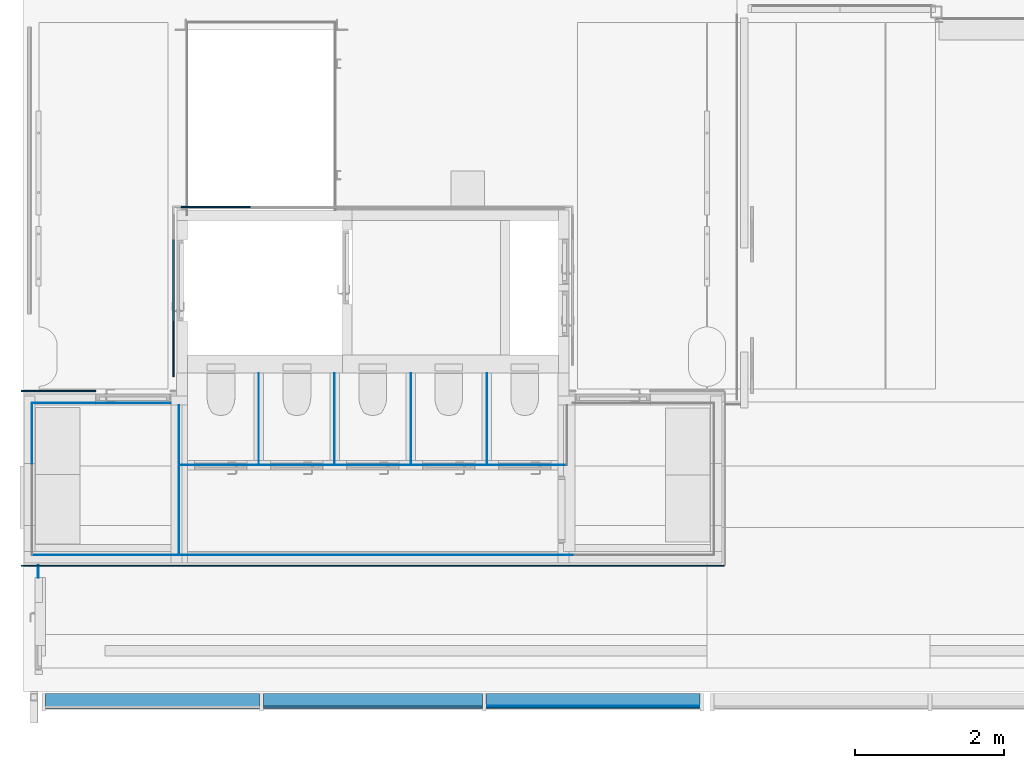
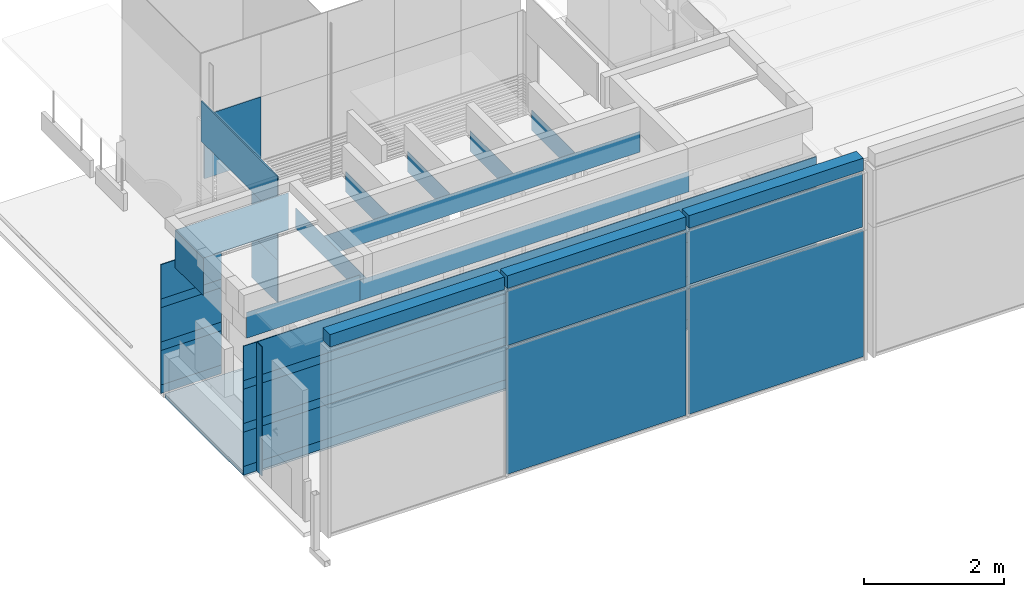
# One storey, part 7 of 26: 34 plates, 1 slab, 16 elements without a shape of their own.
"""IFC2X3 building model written with IfcOpenShell, lengths in millimetres."""

from ifc_helpers import new_model, entity, si_unit, converted_unit, derived_unit, direction, frame, frame_2d, origin, origin_with_axes, origin_2d_with_axis, place, context, subcontext, project, spatial, polyline, rectangle, outline, extrude, source, transform, mapped, material, layer, layer_set, layer_usage, type_object, element, aggregate, save


model = new_model("IFC2X3")

# Units and contexts
model_context = context("Model", 3, precision=0.01, world=frame((0.0, 4.29681676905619e-09, 0.0)), true_north=direction((4.01073788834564e-13, 1.0)))
plan_context = context("Plan", 3, precision=0.01, world=frame((0.0, 4.29681676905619e-09, 0.0)), true_north=direction((4.01073788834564e-13, 1.0)))
body_context = subcontext(model_context, "Body", "Model", "MODEL_VIEW")
ifc_project = project(units=[converted_unit("PLANEANGLEUNIT", "DEGREE", entity("IfcPositiveLengthMeasure", 0.0174532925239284), si_unit("PLANEANGLEUNIT", "RADIAN"), dimensions=[0, 0, 0, 0, 0, 0, 0]), si_unit("AREAUNIT", "SQUARE_METRE"), si_unit("LENGTHUNIT", "METRE", prefix="MILLI"), si_unit("MASSUNIT", "GRAM", prefix="KILO"), si_unit("POWERUNIT", "WATT"), si_unit("PRESSUREUNIT", "PASCAL", prefix="KILO"), si_unit("FORCEUNIT", "NEWTON", prefix="KILO"), si_unit("ELECTRICVOLTAGEUNIT", "VOLT"), si_unit("ELECTRICCURRENTUNIT", "AMPERE"), si_unit("THERMODYNAMICTEMPERATUREUNIT", "DEGREE_CELSIUS"), si_unit("TIMEUNIT", "SECOND"), si_unit("VOLUMEUNIT", "CUBIC_METRE"), derived_unit("LINEARVELOCITYUNIT", [(si_unit("LENGTHUNIT", "METRE"), 1), (si_unit("TIMEUNIT", "SECOND"), -1)]), derived_unit("VOLUMETRICFLOWRATEUNIT", [(si_unit("VOLUMEUNIT", "CUBIC_METRE"), 1), (si_unit("TIMEUNIT", "SECOND"), -1)]), derived_unit("THERMALTRANSMITTANCEUNIT", [(si_unit("POWERUNIT", "WATT"), 1), (si_unit("THERMODYNAMICTEMPERATUREUNIT", "KELVIN"), -1), (si_unit("AREAUNIT", "SQUARE_METRE"), -1)]), derived_unit("SOUNDPRESSUREUNIT", [(si_unit("PRESSUREUNIT", "PASCAL"), 1)])], contexts=[model_context, plan_context])

# Site, building, storey
site_placement = place(None, origin_with_axes())
site = spatial("IfcSite", under=ifc_project, at=site_placement, Name="ENGM", CompositionType="ELEMENT")
building_placement = place(site_placement, origin_with_axes())
building = spatial("IfcBuilding", under=site, at=building_placement, Name="TG", CompositionType="ELEMENT")
storey_placement = place(building_placement, frame((0.0, 0.0, 210200.0), z_axis=(0.0, 0.0, 1.0), x_axis=(1.0, 0.0, 0.0)))
storey = spatial("IfcBuildingStorey", under=building, at=storey_placement, Name="Nivå F - 0,7 m", CompositionType="ELEMENT", Elevation=210200.0)

# Curtain wall, plates
curtain_wall_type_1 = type_object("IfcCurtainWallType", Name="Curtain Wall:A232 - UGV - Glass 30 mm", PredefinedType="NOTDEFINED")
curtain_wall_1_placement = place(storey_placement, frame((0.0, 0.0, -210200.0), z_axis=(0.0, 0.0, 1.0), x_axis=(1.0, 0.0, 0.0)))
curtain_wall_1 = element("IfcCurtainWall", 1, at=curtain_wall_1_placement, inside=storey, type_object=curtain_wall_type_1, Name="Curtain Wall:A232 - UGV - Glass 30 mm", ObjectType="Curtain Wall:A232 - UGV - Glass 30 mm")
ifc_material_1 = material(Name="Glass (Avinor)")
plate_type_1 = type_object("IfcPlateType", Name="System Panel:A234 - Glass - 30 mm", PredefinedType="CURTAIN_PANEL", material=ifc_material_1)
shared_shape_1 = source(origin(), body_context, "Body", "SweptSolid", [
    extrude(rectangle(XDim=30.0, YDim=2880.0, at=origin_2d_with_axis()), frame((0.0, 15.0, 0.0), z_axis=(0.0, 0.0, 1.0), x_axis=(0.0, 1.0, 0.0)), (0.0, 0.0, 1.0), 2200.0),
])
plate_1_placement = place(curtain_wall_1_placement, frame((329464.725000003, 457999.999999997, 210230.0), z_axis=(0.0, 0.0, 1.0), x_axis=(-1.0, 0.0, 0.0)))
plate_1 = element("IfcPlate", 2, at=plate_1_placement, type_object=plate_type_1, material=ifc_material_1, Name="System Panel:A234 - Glass - 30 mm", ObjectType="System Panel:A234 - Glass - 30 mm", context=body_context, shape_type="MappedRepresentation", body=[
    mapped(shared_shape_1, transform((0.0, 0.0, 0.0), scale=1.0)),
])
plate_type_2 = type_object("IfcPlateType", Name="System Panel:A234 - Glass - 30 mm", PredefinedType="CURTAIN_PANEL", material=ifc_material_1)
shared_shape_2 = source(origin(), body_context, "Body", "SweptSolid", [
    extrude(rectangle(XDim=30.0, YDim=2949.99999999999, at=origin_2d_with_axis()), frame((0.0, 15.0, 0.0), z_axis=(0.0, 0.0, 1.0), x_axis=(0.0, 1.0, 0.0)), (0.0, 0.0, 1.0), 2200.0),
])
plate_2_placement = place(curtain_wall_1_placement, frame((326499.725000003, 457999.999999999, 210230.0), z_axis=(0.0, 0.0, 1.0), x_axis=(-1.0, 0.0, 0.0)))
plate_2 = element("IfcPlate", 3, at=plate_2_placement, type_object=plate_type_2, material=ifc_material_1, Name="System Panel:A234 - Glass - 30 mm", ObjectType="System Panel:A234 - Glass - 30 mm", context=body_context, shape_type="MappedRepresentation", body=[
    mapped(shared_shape_2, transform((0.0, 0.0, 0.0), scale=1.0)),
])
plate_type_3 = type_object("IfcPlateType", Name="System Panel:A245 - Glass - 10 mm", PredefinedType="CURTAIN_PANEL", material=ifc_material_1)
shared_shape_3 = source(origin(), body_context, "Body", "SweptSolid", [
    extrude(rectangle(XDim=10.0, YDim=2880.0, at=origin_2d_with_axis()), frame((0.0, 5.0, 0.0), z_axis=(0.0, 0.0, 1.0), x_axis=(0.0, 1.0, 0.0)), (0.0, 0.0, 1.0), 950.000000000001),
])
plate_3_placement = place(curtain_wall_1_placement, frame((329464.725000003, 457999.999999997, 212480.0), z_axis=(0.0, 0.0, 1.0), x_axis=(-1.0, 0.0, 0.0)))
plate_3 = element("IfcPlate", 4, at=plate_3_placement, type_object=plate_type_3, material=ifc_material_1, Name="System Panel:A245 - Glass - 10 mm", ObjectType="System Panel:A245 - Glass - 10 mm", context=body_context, shape_type="MappedRepresentation", body=[
    mapped(shared_shape_3, transform((0.0, 0.0, 0.0), scale=1.0)),
])
plate_type_4 = type_object("IfcPlateType", Name="System Panel:A234 - Glass - 30 mm", PredefinedType="CURTAIN_PANEL", material=ifc_material_1)
shared_shape_4 = source(origin(), body_context, "Body", "SweptSolid", [
    extrude(rectangle(XDim=30.0, YDim=2949.99999999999, at=origin_2d_with_axis()), frame((0.0, 15.0, 0.0), z_axis=(0.0, 0.0, 1.0), x_axis=(0.0, 1.0, 0.0)), (0.0, 0.0, 1.0), 950.000000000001),
])
plate_4_placement = place(curtain_wall_1_placement, frame((326499.725000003, 457999.999999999, 212480.0), z_axis=(0.0, 0.0, 1.0), x_axis=(-1.0, 0.0, 0.0)))
plate_4 = element("IfcPlate", 5, at=plate_4_placement, type_object=plate_type_4, material=ifc_material_1, Name="System Panel:A234 - Glass - 30 mm", ObjectType="System Panel:A234 - Glass - 30 mm", context=body_context, shape_type="MappedRepresentation", body=[
    mapped(shared_shape_4, transform((0.0, 0.0, 0.0), scale=1.0)),
])

# Curtain wall, plate
curtain_wall_type_2 = type_object("IfcCurtainWallType", Name="Curtain Wall:A242 - IGV - Glass - 6 mm", PredefinedType="NOTDEFINED")
curtain_wall_2_placement = place(storey_placement, frame((0.0, 0.0, -210200.0), z_axis=(0.0, 0.0, 1.0), x_axis=(1.0, 0.0, 0.0)))
curtain_wall_2 = element("IfcCurtainWall", 6, at=curtain_wall_2_placement, inside=storey, type_object=curtain_wall_type_2, Name="Curtain Wall:A242 - IGV - Glass - 6 mm", ObjectType="Curtain Wall:A242 - IGV - Glass - 6 mm")
plate_type_5 = type_object("IfcPlateType", Name="System Panel:A245 - Glass - 6 mm", PredefinedType="CURTAIN_PANEL", material=ifc_material_1)
shared_shape_5 = source(origin(), body_context, "Body", "SweptSolid", [
    extrude(rectangle(XDim=6.0, YDim=1239.78749999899, at=frame_2d((-2.22044604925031e-16, 0.0), x_axis=(1.0, 0.0))), frame((0.0, -3.0, 0.0), z_axis=(0.0, 0.0, 1.0), x_axis=(0.0, 1.0, 0.0)), (0.0, 0.0, 1.0), 359.999999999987),
])
plate_5_placement = place(curtain_wall_2_placement, frame((324966.999999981, 461858.856250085, 212450.0), z_axis=(0.0, 0.0, 1.0), x_axis=(0.0, -1.0, 0.0)))
plate_5 = element("IfcPlate", 7, at=plate_5_placement, type_object=plate_type_5, material=ifc_material_1, Name="System Panel:A245 - Glass - 6 mm", ObjectType="System Panel:A245 - Glass - 6 mm", context=body_context, shape_type="MappedRepresentation", body=[
    mapped(shared_shape_5, transform((0.0, 0.0, 0.0), scale=1.0)),
])
aggregate(curtain_wall_2, [plate_5])

curtain_wall_3_placement = place(storey_placement, frame((0.0, 0.0, -210200.0), z_axis=(0.0, 0.0, 1.0), x_axis=(1.0, 0.0, 0.0)))
curtain_wall_3 = element("IfcCurtainWall", 8, at=curtain_wall_3_placement, inside=storey, type_object=curtain_wall_type_2, Name="Curtain Wall:A242 - IGV - Glass - 6 mm", ObjectType="Curtain Wall:A242 - IGV - Glass - 6 mm")
plate_6_placement = place(curtain_wall_3_placement, frame((325983.999999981, 461858.856250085, 212450.0), z_axis=(0.0, 0.0, 1.0), x_axis=(0.0, -1.0, 0.0)))
plate_6 = element("IfcPlate", 9, at=plate_6_placement, type_object=plate_type_5, material=ifc_material_1, Name="System Panel:A245 - Glass - 6 mm", ObjectType="System Panel:A245 - Glass - 6 mm", context=body_context, shape_type="MappedRepresentation", body=[
    mapped(shared_shape_5, transform((0.0, 0.0, 0.0), scale=1.0)),
])
aggregate(curtain_wall_3, [plate_6])

curtain_wall_4_placement = place(storey_placement, frame((0.0, 0.0, -210200.0), z_axis=(0.0, 0.0, 1.0), x_axis=(1.0, 0.0, 0.0)))
curtain_wall_4 = element("IfcCurtainWall", 10, at=curtain_wall_4_placement, inside=storey, type_object=curtain_wall_type_2, Name="Curtain Wall:A242 - IGV - Glass - 6 mm", ObjectType="Curtain Wall:A242 - IGV - Glass - 6 mm")
plate_7_placement = place(curtain_wall_4_placement, frame((327015.999999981, 461858.856250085, 212450.0), z_axis=(0.0, 0.0, 1.0), x_axis=(0.0, -1.0, 0.0)))
plate_7 = element("IfcPlate", 11, at=plate_7_placement, type_object=plate_type_5, material=ifc_material_1, Name="System Panel:A245 - Glass - 6 mm", ObjectType="System Panel:A245 - Glass - 6 mm", context=body_context, shape_type="MappedRepresentation", body=[
    mapped(shared_shape_5, transform((0.0, 0.0, 0.0), scale=1.0)),
])
aggregate(curtain_wall_4, [plate_7])

curtain_wall_5_placement = place(storey_placement, frame((0.0, 0.0, -210200.0), z_axis=(0.0, 0.0, 1.0), x_axis=(1.0, 0.0, 0.0)))
curtain_wall_5 = element("IfcCurtainWall", 12, at=curtain_wall_5_placement, inside=storey, type_object=curtain_wall_type_2, Name="Curtain Wall:A242 - IGV - Glass - 6 mm", ObjectType="Curtain Wall:A242 - IGV - Glass - 6 mm")
plate_8_placement = place(curtain_wall_5_placement, frame((328038.999999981, 461858.856250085, 212450.0), z_axis=(0.0, 0.0, 1.0), x_axis=(0.0, -1.0, 0.0)))
plate_8 = element("IfcPlate", 13, at=plate_8_placement, type_object=plate_type_5, material=ifc_material_1, Name="System Panel:A245 - Glass - 6 mm", ObjectType="System Panel:A245 - Glass - 6 mm", context=body_context, shape_type="MappedRepresentation", body=[
    mapped(shared_shape_5, transform((0.0, 0.0, 0.0), scale=1.0)),
])
aggregate(curtain_wall_5, [plate_8])

curtain_wall_6_placement = place(storey_placement, frame((0.0, 0.0, -210200.0), z_axis=(0.0, 0.0, 1.0), x_axis=(1.0, 0.0, 0.0)))
curtain_wall_6 = element("IfcCurtainWall", 14, at=curtain_wall_6_placement, inside=storey, type_object=curtain_wall_type_2, Name="Curtain Wall:A242 - IGV - Glass - 6 mm", ObjectType="Curtain Wall:A242 - IGV - Glass - 6 mm")
plate_type_6 = type_object("IfcPlateType", Name="System Panel:A245 - Glass - 6 mm", PredefinedType="CURTAIN_PANEL", material=ifc_material_1)
shared_shape_6 = source(origin(), body_context, "Body", "SweptSolid", [
    extrude(rectangle(XDim=6.0, YDim=5216.74999997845, at=origin_2d_with_axis()), frame((0.0, 3.0, 0.0), z_axis=(0.0, 0.0, 1.0), x_axis=(0.0, 1.0, 0.0)), (0.0, 0.0, 1.0), 359.999999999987),
])
plate_9_placement = place(curtain_wall_6_placement, frame((326500.62499999, 461244.46249997, 212450.0), z_axis=(0.0, 0.0, 1.0), x_axis=(-1.0, 0.0, 0.0)))
plate_9 = element("IfcPlate", 15, at=plate_9_placement, type_object=plate_type_6, material=ifc_material_1, Name="System Panel:A245 - Glass - 6 mm", ObjectType="System Panel:A245 - Glass - 6 mm", context=body_context, shape_type="MappedRepresentation", body=[
    mapped(shared_shape_6, transform((0.0, 0.0, 0.0), scale=1.0)),
])
aggregate(curtain_wall_6, [plate_9])

curtain_wall_type_3 = type_object("IfcCurtainWallType", Name="Curtain Wall:A245 - BIM av T1 - IMK 20mm - Offset 30mm", PredefinedType="NOTDEFINED")
curtain_wall_7_placement = place(storey_placement, frame((0.0, 0.0, -210200.0), z_axis=(0.0, 0.0, 1.0), x_axis=(1.0, 0.0, 0.0)))
curtain_wall_7 = element("IfcCurtainWall", 16, at=curtain_wall_7_placement, inside=storey, type_object=curtain_wall_type_3, Name="Curtain Wall:A245 - BIM av T1 - IMK 20mm - Offset 30mm", ObjectType="Curtain Wall:A245 - BIM av T1 - IMK 20mm - Offset 30mm")
ifc_material_2 = material(Name="T2_Tre Finerplate")
plate_type_7 = type_object("IfcPlateType", Name="System Panel:A245 - Trepanel eksisterende", PredefinedType="CURTAIN_PANEL", material=ifc_material_2)
shared_shape_7 = source(origin(), body_context, "Body", "SweptSolid", [
    extrude(rectangle(XDim=20.0, YDim=935.000000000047, at=frame_2d((1.77635683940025e-15, 0.0), x_axis=(1.0, 0.0))), frame((0.0, 40.0, 0.0), z_axis=(0.0, 0.0, 1.0), x_axis=(0.0, 1.0, 0.0)), (0.0, 0.0, 1.0), 1104.99999999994),
])
plate_10_placement = place(curtain_wall_7_placement, frame((324382.500000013, 464677.272716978, 211695.0), z_axis=(0.0, 0.0, 1.0), x_axis=(1.0, 0.0, 0.0)))
plate_10 = element("IfcPlate", 17, at=plate_10_placement, type_object=plate_type_7, material=ifc_material_2, Name="System Panel:A245 - Trepanel eksisterende", ObjectType="System Panel:A245 - Trepanel eksisterende", context=body_context, shape_type="MappedRepresentation", body=[
    mapped(shared_shape_7, transform((0.0, 0.0, 0.0), scale=1.0)),
])
aggregate(curtain_wall_7, [plate_10])

# Curtain wall, plates
curtain_wall_8_placement = place(storey_placement, frame((0.0, 0.0, -210200.0), z_axis=(0.0, 0.0, 1.0), x_axis=(1.0, 0.0, 0.0)))
curtain_wall_8 = element("IfcCurtainWall", 18, at=curtain_wall_8_placement, inside=storey, type_object=curtain_wall_type_3, Name="Curtain Wall:A245 - BIM av T1 - IMK 20mm - Offset 30mm", ObjectType="Curtain Wall:A245 - BIM av T1 - IMK 20mm - Offset 30mm")
ifc_material_3 = material(Name="Metal - Preget plate")
plate_type_8 = type_object("IfcPlateType", Name="System Panel:U245 - Metallkasett Inv. - 20 mm - Offset 30 mm", PredefinedType="CURTAIN_PANEL", material=ifc_material_3)
shared_shape_8 = source(origin(), body_context, "Body", "SweptSolid", [
    extrude(rectangle(XDim=20.0, YDim=738.937500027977, at=frame_2d((-1.77635683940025e-15, 0.0), x_axis=(1.0, 0.0))), frame((0.0, -40.0, 0.0), z_axis=(0.0, 0.0, 1.0), x_axis=(0.0, 1.0, 0.0)), (0.0, 0.0, 1.0), 750.000000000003),
])
plate_11_placement = place(curtain_wall_8_placement, frame((323855.000000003, 462800.531250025, 210950.0), z_axis=(0.0, 0.0, 1.0), x_axis=(0.0, -1.0, 0.0)))
plate_11 = element("IfcPlate", 19, at=plate_11_placement, type_object=plate_type_8, material=ifc_material_3, Name="System Panel:U245 - Metallkasett Inv. - 20 mm - Offset 30 mm", ObjectType="System Panel:U245 - Metallkasett Inv. - 20 mm - Offset 30 mm", context=body_context, shape_type="MappedRepresentation", body=[
    mapped(shared_shape_8, transform((0.0, 0.0, 0.0), scale=1.0)),
])
plate_12_placement = place(curtain_wall_8_placement, frame((323855.000000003, 462800.531250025, 211700.0), z_axis=(0.0, 0.0, 1.0), x_axis=(0.0, -1.0, 0.0)))
plate_12 = element("IfcPlate", 20, at=plate_12_placement, type_object=plate_type_8, material=ifc_material_3, Name="System Panel:U245 - Metallkasett Inv. - 20 mm - Offset 30 mm", ObjectType="System Panel:U245 - Metallkasett Inv. - 20 mm - Offset 30 mm", context=body_context, shape_type="MappedRepresentation", body=[
    mapped(shared_shape_8, transform((0.0, 0.0, 0.0), scale=1.0)),
])
ifc_material_4 = material(Name="Metal - Steel")
plate_type_9 = type_object("IfcPlateType", Name="System Panel:A245 - Metallkasett Inv.20mm - Offset 30mm", PredefinedType="CURTAIN_PANEL", material=ifc_material_4)
shared_shape_9 = source(origin(), body_context, "Body", "SweptSolid", [
    extrude(rectangle(XDim=699.999999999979, YDim=2186.21021696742, at=frame_2d((0.0, 100.416195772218), x_axis=(1.0, 0.0))), frame((-100.416195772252, -50.0, 350.0), z_axis=(0.0, 1.0, 0.0), x_axis=(0.0, 0.0, 1.0)), (0.0, 0.0, 1.0), 20.0),
])
plate_13_placement = place(curtain_wall_8_placement, frame((323855.000000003, 463524.167608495, 212450.0), z_axis=(0.0, 0.0, 1.0), x_axis=(0.0, -1.0, 0.0)))
plate_13 = element("IfcPlate", 21, at=plate_13_placement, type_object=plate_type_9, material=ifc_material_4, Name="System Panel:A245 - Metallkasett Inv.20mm - Offset 30mm", ObjectType="System Panel:A245 - Metallkasett Inv.20mm - Offset 30mm", context=body_context, shape_type="MappedRepresentation", body=[
    mapped(shared_shape_9, transform((0.0, 0.0, 0.0), scale=1.0)),
])
aggregate(curtain_wall_8, [plate_11, plate_12, plate_13])

curtain_wall_type_4 = type_object("IfcCurtainWallType", Name="Curtain Wall:A245 - ITK - Trekledning", PredefinedType="NOTDEFINED")
curtain_wall_9_placement = place(storey_placement, frame((0.0, 0.0, -210200.0), z_axis=(0.0, 0.0, 1.0), x_axis=(1.0, 0.0, 0.0)))
curtain_wall_9 = element("IfcCurtainWall", 22, at=curtain_wall_9_placement, inside=storey, type_object=curtain_wall_type_4, Name="Curtain Wall:A245 - ITK - Trekledning", ObjectType="Curtain Wall:A245 - ITK - Trekledning")
ifc_material_5 = material(Name="Wood - Timber")
plate_type_10 = type_object("IfcPlateType", Name="System Panel:A245 - KL-T03 - Trekledning 14mm", PredefinedType="CURTAIN_PANEL", material=ifc_material_5)
shared_shape_10 = source(origin(), body_context, "Body", "SweptSolid", [
    extrude(rectangle(XDim=14.0, YDim=9462.0000000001, at=origin_2d_with_axis()), frame((0.0, -7.0, 0.0), z_axis=(0.0, 0.0, 1.0), x_axis=(0.0, 1.0, 0.0)), (0.0, 0.0, 1.0), 150.000000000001),
])
plate_14_placement = place(curtain_wall_9_placement, frame((326500.000000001, 459892.600000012, 210200.0), z_axis=(0.0, 0.0, 1.0), x_axis=(1.0, 0.0, 0.0)))
plate_14 = element("IfcPlate", 23, at=plate_14_placement, type_object=plate_type_10, material=ifc_material_5, Name="System Panel:A245 - KL-T03 - Trekledning 14mm", ObjectType="System Panel:A245 - KL-T03 - Trekledning 14mm", context=body_context, shape_type="MappedRepresentation", body=[
    mapped(shared_shape_10, transform((0.0, 0.0, 0.0), scale=1.0)),
])
plate_15_placement = place(curtain_wall_9_placement, frame((326500.000000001, 459892.600000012, 210950.0), z_axis=(0.0, 0.0, 1.0), x_axis=(1.0, 0.0, 0.0)))
plate_15 = element("IfcPlate", 24, at=plate_15_placement, type_object=plate_type_10, material=ifc_material_5, Name="System Panel:A245 - KL-T03 - Trekledning 14mm", ObjectType="System Panel:A245 - KL-T03 - Trekledning 14mm", context=body_context, shape_type="MappedRepresentation", body=[
    mapped(shared_shape_10, transform((0.0, 0.0, 0.0), scale=1.0)),
])
plate_16_placement = place(curtain_wall_9_placement, frame((326500.000000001, 459892.600000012, 211700.0), z_axis=(0.0, 0.0, 1.0), x_axis=(1.0, 0.0, 0.0)))
plate_16 = element("IfcPlate", 25, at=plate_16_placement, type_object=plate_type_10, material=ifc_material_5, Name="System Panel:A245 - KL-T03 - Trekledning 14mm", ObjectType="System Panel:A245 - KL-T03 - Trekledning 14mm", context=body_context, shape_type="MappedRepresentation", body=[
    mapped(shared_shape_10, transform((0.0, 0.0, 0.0), scale=1.0)),
])
plate_type_11 = type_object("IfcPlateType", Name="System Panel:A245 - KL-T03 - Trekledning 14mm", PredefinedType="CURTAIN_PANEL", material=ifc_material_5)
shared_shape_11 = source(origin(), body_context, "Body", "SweptSolid", [
    extrude(rectangle(XDim=14.0, YDim=9462.0000000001, at=origin_2d_with_axis()), frame((0.0, -7.0, 0.0), z_axis=(0.0, 0.0, 1.0), x_axis=(0.0, 1.0, 0.0)), (0.0, 0.0, 1.0), 600.000000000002),
])
plate_17_placement = place(curtain_wall_9_placement, frame((326500.000000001, 459892.600000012, 210350.0), z_axis=(0.0, 0.0, 1.0), x_axis=(1.0, 0.0, 0.0)))
plate_17 = element("IfcPlate", 26, at=plate_17_placement, type_object=plate_type_11, material=ifc_material_5, Name="System Panel:A245 - KL-T03 - Trekledning 14mm", ObjectType="System Panel:A245 - KL-T03 - Trekledning 14mm", context=body_context, shape_type="MappedRepresentation", body=[
    mapped(shared_shape_11, transform((0.0, 0.0, 0.0), scale=1.0)),
])
plate_18_placement = place(curtain_wall_9_placement, frame((326500.000000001, 459892.600000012, 211100.0), z_axis=(0.0, 0.0, 1.0), x_axis=(1.0, 0.0, 0.0)))
plate_18 = element("IfcPlate", 27, at=plate_18_placement, type_object=plate_type_11, material=ifc_material_5, Name="System Panel:A245 - KL-T03 - Trekledning 14mm", ObjectType="System Panel:A245 - KL-T03 - Trekledning 14mm", context=body_context, shape_type="MappedRepresentation", body=[
    mapped(shared_shape_11, transform((0.0, 0.0, 0.0), scale=1.0)),
])
plate_19_placement = place(curtain_wall_9_placement, frame((326500.000000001, 459892.600000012, 211850.0), z_axis=(0.0, 0.0, 1.0), x_axis=(1.0, 0.0, 0.0)))
plate_19 = element("IfcPlate", 28, at=plate_19_placement, type_object=plate_type_11, material=ifc_material_5, Name="System Panel:A245 - KL-T03 - Trekledning 14mm", ObjectType="System Panel:A245 - KL-T03 - Trekledning 14mm", context=body_context, shape_type="MappedRepresentation", body=[
    mapped(shared_shape_11, transform((0.0, 0.0, 0.0), scale=1.0)),
])
aggregate(curtain_wall_9, [plate_14, plate_17, plate_15, plate_18, plate_16, plate_19])

curtain_wall_10_placement = place(storey_placement, frame((0.0, 0.0, -210200.0), z_axis=(0.0, 0.0, 1.0), x_axis=(1.0, 0.0, 0.0)))
curtain_wall_10 = element("IfcCurtainWall", 29, at=curtain_wall_10_placement, inside=storey, type_object=curtain_wall_type_4, Name="Curtain Wall:A245 - ITK - Trekledning", ObjectType="Curtain Wall:A245 - ITK - Trekledning")
plate_type_12 = type_object("IfcPlateType", Name="System Panel:A245 - KL-T03 - Trekledning 14mm", PredefinedType="CURTAIN_PANEL", material=ifc_material_5)
shared_shape_12 = source(origin(), body_context, "Body", "SweptSolid", [
    extrude(rectangle(XDim=14.0, YDim=1002.00000001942, at=origin_2d_with_axis()), frame((0.0, -7.0, 0.0), z_axis=(0.0, 0.0, 1.0), x_axis=(0.0, 1.0, 0.0)), (0.0, 0.0, 1.0), 150.000000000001),
])
plate_20_placement = place(curtain_wall_10_placement, frame((322270.0, 462230.600000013, 210200.0), z_axis=(0.0, 0.0, 1.0), x_axis=(-1.0, 0.0, 0.0)))
plate_20 = element("IfcPlate", 30, at=plate_20_placement, type_object=plate_type_12, material=ifc_material_5, Name="System Panel:A245 - KL-T03 - Trekledning 14mm", ObjectType="System Panel:A245 - KL-T03 - Trekledning 14mm", context=body_context, shape_type="MappedRepresentation", body=[
    mapped(shared_shape_12, transform((0.0, 0.0, 0.0), scale=1.0)),
])
plate_21_placement = place(curtain_wall_10_placement, frame((322270.0, 462230.600000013, 210950.0), z_axis=(0.0, 0.0, 1.0), x_axis=(-1.0, 0.0, 0.0)))
plate_21 = element("IfcPlate", 31, at=plate_21_placement, type_object=plate_type_12, material=ifc_material_5, Name="System Panel:A245 - KL-T03 - Trekledning 14mm", ObjectType="System Panel:A245 - KL-T03 - Trekledning 14mm", context=body_context, shape_type="MappedRepresentation", body=[
    mapped(shared_shape_12, transform((0.0, 0.0, 0.0), scale=1.0)),
])
plate_22_placement = place(curtain_wall_10_placement, frame((322270.0, 462230.600000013, 211700.0), z_axis=(0.0, 0.0, 1.0), x_axis=(-1.0, 0.0, 0.0)))
plate_22 = element("IfcPlate", 32, at=plate_22_placement, type_object=plate_type_12, material=ifc_material_5, Name="System Panel:A245 - KL-T03 - Trekledning 14mm", ObjectType="System Panel:A245 - KL-T03 - Trekledning 14mm", context=body_context, shape_type="MappedRepresentation", body=[
    mapped(shared_shape_12, transform((0.0, 0.0, 0.0), scale=1.0)),
])
plate_type_13 = type_object("IfcPlateType", Name="System Panel:A245 - KL-T03 - Trekledning 14mm", PredefinedType="CURTAIN_PANEL", material=ifc_material_5)
shared_shape_13 = source(origin(), body_context, "Body", "SweptSolid", [
    extrude(rectangle(XDim=14.0, YDim=1002.00000001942, at=origin_2d_with_axis()), frame((0.0, -7.0, 0.0), z_axis=(0.0, 0.0, 1.0), x_axis=(0.0, 1.0, 0.0)), (0.0, 0.0, 1.0), 600.000000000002),
])
plate_23_placement = place(curtain_wall_10_placement, frame((322270.0, 462230.600000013, 210350.0), z_axis=(0.0, 0.0, 1.0), x_axis=(-1.0, 0.0, 0.0)))
plate_23 = element("IfcPlate", 33, at=plate_23_placement, type_object=plate_type_13, material=ifc_material_5, Name="System Panel:A245 - KL-T03 - Trekledning 14mm", ObjectType="System Panel:A245 - KL-T03 - Trekledning 14mm", context=body_context, shape_type="MappedRepresentation", body=[
    mapped(shared_shape_13, transform((0.0, 0.0, 0.0), scale=1.0)),
])
plate_24_placement = place(curtain_wall_10_placement, frame((322270.0, 462230.600000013, 211100.0), z_axis=(0.0, 0.0, 1.0), x_axis=(-1.0, 0.0, 0.0)))
plate_24 = element("IfcPlate", 34, at=plate_24_placement, type_object=plate_type_13, material=ifc_material_5, Name="System Panel:A245 - KL-T03 - Trekledning 14mm", ObjectType="System Panel:A245 - KL-T03 - Trekledning 14mm", context=body_context, shape_type="MappedRepresentation", body=[
    mapped(shared_shape_13, transform((0.0, 0.0, 0.0), scale=1.0)),
])
plate_25_placement = place(curtain_wall_10_placement, frame((322270.0, 462230.600000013, 211850.0), z_axis=(0.0, 0.0, 1.0), x_axis=(-1.0, 0.0, 0.0)))
plate_25 = element("IfcPlate", 35, at=plate_25_placement, type_object=plate_type_13, material=ifc_material_5, Name="System Panel:A245 - KL-T03 - Trekledning 14mm", ObjectType="System Panel:A245 - KL-T03 - Trekledning 14mm", context=body_context, shape_type="MappedRepresentation", body=[
    mapped(shared_shape_13, transform((0.0, 0.0, 0.0), scale=1.0)),
])
aggregate(curtain_wall_10, [plate_20, plate_23, plate_21, plate_24, plate_22, plate_25])

# Curtain wall, plate
curtain_wall_11_placement = place(storey_placement, frame((0.0, 0.0, -210200.0), z_axis=(0.0, 0.0, 1.0), x_axis=(1.0, 0.0, 0.0)))
curtain_wall_11 = element("IfcCurtainWall", 36, at=curtain_wall_11_placement, inside=storey, type_object=curtain_wall_type_2, Name="Curtain Wall:A242 - IGV - Glass - 6 mm", ObjectType="Curtain Wall:A242 - IGV - Glass - 6 mm")
plate_type_14 = type_object("IfcPlateType", Name="System Panel:A245 - Glass - 6 mm", PredefinedType="CURTAIN_PANEL", material=ifc_material_1)
shared_shape_14 = source(origin(), body_context, "Body", "SweptSolid", [
    extrude(rectangle(XDim=6.0, YDim=2013.00000008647, at=frame_2d((-2.22044604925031e-16, 0.0), x_axis=(1.0, 0.0))), frame((0.0, -3.0, 0.0), z_axis=(0.0, 0.0, 1.0), x_axis=(0.0, 1.0, 0.0)), (0.0, 0.0, 1.0), 359.999999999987),
])
plate_26_placement = place(curtain_wall_11_placement, frame((323892.250000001, 461042.100000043, 212450.0), z_axis=(0.0, 0.0, 1.0), x_axis=(0.0, -1.0, 0.0)))
plate_26 = element("IfcPlate", 37, at=plate_26_placement, type_object=plate_type_14, material=ifc_material_1, Name="System Panel:A245 - Glass - 6 mm", ObjectType="System Panel:A245 - Glass - 6 mm", context=body_context, shape_type="MappedRepresentation", body=[
    mapped(shared_shape_14, transform((0.0, 0.0, 0.0), scale=1.0)),
])
aggregate(curtain_wall_11, [plate_26])

curtain_wall_12_placement = place(storey_placement, frame((0.0, 0.0, -210200.0), z_axis=(0.0, 0.0, 1.0), x_axis=(1.0, 0.0, 0.0)))
curtain_wall_12 = element("IfcCurtainWall", 38, at=curtain_wall_12_placement, inside=storey, type_object=curtain_wall_type_2, Name="Curtain Wall:A242 - IGV - Glass - 6 mm", ObjectType="Curtain Wall:A242 - IGV - Glass - 6 mm")
plate_type_15 = type_object("IfcPlateType", Name="System Panel:A245 - Glass - 6 mm", PredefinedType="CURTAIN_PANEL", material=ifc_material_1)
shared_shape_15 = source(origin(), body_context, "Body", "SweptSolid", [
    extrude(rectangle(XDim=6.0, YDim=1869.50000002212, at=origin_2d_with_axis()), frame((0.0, -3.0, 0.0), z_axis=(0.0, 0.0, 1.0), x_axis=(0.0, 1.0, 0.0)), (0.0, 0.0, 1.0), 450.000000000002),
])
plate_27_placement = place(curtain_wall_12_placement, frame((322846.749999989, 460035.599999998, 212450.0), z_axis=(0.0, 0.0, 1.0), x_axis=(1.0, 0.0, 0.0)))
plate_27 = element("IfcPlate", 39, at=plate_27_placement, type_object=plate_type_15, material=ifc_material_1, Name="System Panel:A245 - Glass - 6 mm", ObjectType="System Panel:A245 - Glass - 6 mm", context=body_context, shape_type="MappedRepresentation", body=[
    mapped(shared_shape_15, transform((0.0, 0.0, 0.0), scale=1.0)),
])
aggregate(curtain_wall_12, [plate_27])

curtain_wall_13_placement = place(storey_placement, frame((0.0, 0.0, -210200.0), z_axis=(0.0, 0.0, 1.0), x_axis=(1.0, 0.0, 0.0)))
curtain_wall_13 = element("IfcCurtainWall", 40, at=curtain_wall_13_placement, inside=storey, type_object=curtain_wall_type_2, Name="Curtain Wall:A242 - IGV - Glass - 6 mm", ObjectType="Curtain Wall:A242 - IGV - Glass - 6 mm")
plate_type_16 = type_object("IfcPlateType", Name="System Panel:A245 - Glass - 6 mm", PredefinedType="CURTAIN_PANEL", material=ifc_material_1)
shared_shape_16 = source(origin(), body_context, "Body", "SweptSolid", [
    extrude(rectangle(XDim=6.0, YDim=1869.50000002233, at=origin_2d_with_axis()), frame((0.0, -3.0, 0.0), z_axis=(0.0, 0.0, 1.0), x_axis=(0.0, 1.0, 0.0)), (0.0, 0.0, 1.0), 649.999999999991),
])
plate_28_placement = place(curtain_wall_13_placement, frame((322846.749999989, 462071.481498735, 212450.0), z_axis=(0.0, 0.0, 1.0), x_axis=(-1.0, 0.0, 0.0)))
plate_28 = element("IfcPlate", 41, at=plate_28_placement, type_object=plate_type_16, material=ifc_material_1, Name="System Panel:A245 - Glass - 6 mm", ObjectType="System Panel:A245 - Glass - 6 mm", context=body_context, shape_type="MappedRepresentation", body=[
    mapped(shared_shape_16, transform((0.0, 0.0, 0.0), scale=1.0)),
])
aggregate(curtain_wall_13, [plate_28])

curtain_wall_14_placement = place(storey_placement, frame((0.0, 0.0, -210200.0), z_axis=(0.0, 0.0, 1.0), x_axis=(1.0, 0.0, 0.0)))
curtain_wall_14 = element("IfcCurtainWall", 42, at=curtain_wall_14_placement, inside=storey, type_object=curtain_wall_type_2, Name="Curtain Wall:A242 - IGV - Glass - 6 mm", ObjectType="Curtain Wall:A242 - IGV - Glass - 6 mm")
plate_type_17 = type_object("IfcPlateType", Name="System Panel:A245 - Glass - 6 mm", PredefinedType="CURTAIN_PANEL", material=ifc_material_1)
shared_shape_17 = source(origin(), body_context, "Body", "SweptSolid", [
    extrude(rectangle(XDim=6.0, YDim=5437.00000000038, at=origin_2d_with_axis()), frame((0.0, -3.0, 0.0), z_axis=(0.0, 0.0, 1.0), x_axis=(0.0, 1.0, 0.0)), (0.0, 0.0, 1.0), 359.999999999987),
])
plate_29_placement = place(curtain_wall_14_placement, frame((326500.0, 460035.599999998, 212450.0), z_axis=(0.0, 0.0, 1.0), x_axis=(1.0, 0.0, 0.0)))
plate_29 = element("IfcPlate", 43, at=plate_29_placement, type_object=plate_type_17, material=ifc_material_1, Name="System Panel:A245 - Glass - 6 mm", ObjectType="System Panel:A245 - Glass - 6 mm", context=body_context, shape_type="MappedRepresentation", body=[
    mapped(shared_shape_17, transform((0.0, 0.0, 0.0), scale=1.0)),
])
aggregate(curtain_wall_14, [plate_29])

curtain_wall_15_placement = place(storey_placement, frame((0.0, 0.0, -210200.0), z_axis=(0.0, 0.0, 1.0), x_axis=(1.0, 0.0, 0.0)))
curtain_wall_15 = element("IfcCurtainWall", 44, at=curtain_wall_15_placement, inside=storey, type_object=curtain_wall_type_2, Name="Curtain Wall:A242 - IGV - Glass - 6 mm", ObjectType="Curtain Wall:A242 - IGV - Glass - 6 mm")
plate_type_18 = type_object("IfcPlateType", Name="System Panel:A245 - Glass - 6 mm", PredefinedType="CURTAIN_PANEL", material=ifc_material_1)
shared_shape_18 = source(origin(), body_context, "Body", "SweptSolid", [
    extrude(rectangle(XDim=6.0, YDim=811.481498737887, at=origin_2d_with_axis()), frame((0.0, 3.0, 0.0), z_axis=(0.0, 0.0, 1.0), x_axis=(0.0, 1.0, 0.0)), (0.0, 0.0, 1.0), 649.999999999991),
])
plate_30_placement = place(curtain_wall_15_placement, frame((321911.999999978, 461665.740749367, 212450.0), z_axis=(0.0, 0.0, 1.0), x_axis=(0.0, 1.0, 0.0)))
plate_30 = element("IfcPlate", 45, at=plate_30_placement, type_object=plate_type_18, material=ifc_material_1, Name="System Panel:A245 - Glass - 6 mm", ObjectType="System Panel:A245 - Glass - 6 mm", context=body_context, shape_type="MappedRepresentation", body=[
    mapped(shared_shape_18, transform((0.0, 0.0, 0.0), scale=1.0)),
])
aggregate(curtain_wall_15, [plate_30])

curtain_wall_type_5 = type_object("IfcCurtainWallType", Name="Curtain Wall:A242 - IGV - Glass - 10 mm", PredefinedType="NOTDEFINED")
curtain_wall_16_placement = place(storey_placement, frame((0.0, 0.0, -210200.0), z_axis=(0.0, 0.0, 1.0), x_axis=(1.0, 0.0, 0.0)))
curtain_wall_16 = element("IfcCurtainWall", 46, at=curtain_wall_16_placement, inside=storey, type_object=curtain_wall_type_5, Name="Curtain Wall:A242 - IGV - Glass - 10 mm", ObjectType="Curtain Wall:A242 - IGV - Glass - 10 mm")
plate_type_19 = type_object("IfcPlateType", Name="System Panel:A245 - Glass - 10 mm", PredefinedType="CURTAIN_PANEL", material=ifc_material_1)
shared_shape_19 = source(origin(), body_context, "Body", "SweptSolid", [
    extrude(rectangle(XDim=10.0, YDim=163.669075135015, at=origin_2d_with_axis()), frame((0.0, -5.0, 0.0), z_axis=(0.0, 0.0, 1.0), x_axis=(0.0, 1.0, 0.0)), (0.0, 0.0, 1.0), 2250.00000000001),
])
plate_31_placement = place(curtain_wall_16_placement, frame((322000.000000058, 459808.76546244, 210200.0), z_axis=(0.0, 0.0, 1.0), x_axis=(0.0, -1.0, 0.0)))
plate_31 = element("IfcPlate", 47, at=plate_31_placement, type_object=plate_type_19, material=ifc_material_1, Name="System Panel:A245 - Glass - 10 mm", ObjectType="System Panel:A245 - Glass - 10 mm", context=body_context, shape_type="MappedRepresentation", body=[
    mapped(shared_shape_19, transform((0.0, 0.0, 0.0), scale=1.0)),
])
aggregate(curtain_wall_16, [plate_31])

# Plate
ifc_material_6 = material(Name="_NSW Aluminium")
ifc_layer_1 = layer(ifc_material_6, 10.0)
ifc_material_7 = material(Name="_NSW Luftspalte")
ifc_layer_2 = layer(ifc_material_7, 25.0)
ifc_layer_3 = layer(ifc_material_7, 45.0)
ifc_material_8 = material(Name="_NSW Isolasjon")
ifc_layer_4 = layer(ifc_material_8, 115.0)
ifc_layer_5 = layer(ifc_material_6, 5.0)
ifc_layer_set_1 = layer_set([ifc_layer_1, ifc_layer_2, ifc_layer_3, ifc_layer_4, ifc_layer_5], Name="Basic Wall:A234 - Blindfelt (eksisterende pir)")
plate_type_20 = type_object("IfcPlateType", Name="Basic Wall:A234 - Blindfelt (eksisterende pir)", PredefinedType="CURTAIN_PANEL", material=ifc_layer_set_1)
plate_32_placement = place(curtain_wall_1_placement, frame((330904.725000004, 458064.999999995, 213480.0), z_axis=(0.0, 0.0, 1.0), x_axis=(-1.0, 0.0, 0.0)))
plate_32 = element("IfcPlate", 48, at=plate_32_placement, type_object=plate_type_20, Name="Basic Wall:A234 - Blindfelt (eksisterende pir)", ObjectType="Basic Wall:A234 - Blindfelt (eksisterende pir)", context=body_context, shape_type="SweptSolid", body=[
    extrude(rectangle(XDim=219.999999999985, YDim=200.000000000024, at=frame_2d((-1.73301373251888e-11, 3.46531692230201e-11), x_axis=(1.0, 0.0))), frame((2880.0, 0.0, 110.0), z_axis=(-1.0, 0.0, 0.0), x_axis=(0.0, 0.0, 1.0)), (0.0, 0.0, 1.0), 2880.00000000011),
])

plate_33_placement = place(curtain_wall_1_placement, frame((327974.725000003, 458064.999999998, 213480.0), z_axis=(0.0, 0.0, 1.0), x_axis=(-1.0, 0.0, 0.0)))
plate_33 = element("IfcPlate", 49, at=plate_33_placement, type_object=plate_type_20, Name="Basic Wall:A234 - Blindfelt (eksisterende pir)", ObjectType="Basic Wall:A234 - Blindfelt (eksisterende pir)", context=body_context, shape_type="SweptSolid", body=[
    extrude(rectangle(XDim=219.999999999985, YDim=200.000000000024, at=frame_2d((-1.73301373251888e-11, 3.46531692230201e-11), x_axis=(1.0, 0.0))), frame((2950.0, 0.0, 110.0), z_axis=(-1.0, 0.0, 0.0), x_axis=(0.0, 0.0, 1.0)), (0.0, 0.0, 1.0), 2949.99999999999),
])

plate_34_placement = place(curtain_wall_1_placement, frame((324974.725000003, 458065.0, 213480.0), z_axis=(0.0, 0.0, 1.0), x_axis=(-1.0, 0.0, 0.0)))
plate_34 = element("IfcPlate", 50, at=plate_34_placement, type_object=plate_type_20, Name="Basic Wall:A234 - Blindfelt (eksisterende pir)", ObjectType="Basic Wall:A234 - Blindfelt (eksisterende pir)", context=body_context, shape_type="SweptSolid", body=[
    extrude(rectangle(XDim=219.999999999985, YDim=200.000000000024, at=frame_2d((-1.73301373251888e-11, 3.46531692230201e-11), x_axis=(1.0, 0.0))), frame((2880.0, 0.0, 110.0), z_axis=(-1.0, 0.0, 0.0), x_axis=(0.0, 0.0, 1.0)), (0.0, 0.0, 1.0), 2880.00000000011),
])

aggregate(curtain_wall_1, [plate_1, plate_2, plate_3, plate_4, plate_32, plate_33, plate_34])

# Slab
ifc_material_9 = material(Name="T2 - Dekke uten skravur")
ifc_layer_6 = layer(ifc_material_9, 70.0)
ifc_layer_set_2 = layer_set([ifc_layer_6], Name="Floor:A254  - Gulvoppbygging m_f.o - 70mm - våtrom")
ifc_layer_usage = layer_usage(ifc_layer_set_2, "AXIS3", "POSITIVE", 0.0)
slab_type = type_object("IfcSlabType", Name="Floor:A254  - Gulvoppbygging m_f.o - 70mm - våtrom", PredefinedType="FLOOR", material=ifc_layer_set_2)
slab_placement = place(storey_placement, origin_with_axes())
element("IfcSlab", 51, at=slab_placement, inside=storey, type_object=slab_type, material=ifc_layer_usage, Name="Floor:A254  - Gulvoppbygging m_f.o - 70mm - våtrom", ObjectType="Floor:A254  - Gulvoppbygging m_f.o - 70mm - våtrom", PredefinedType="FLOOR", context=body_context, shape_type="SweptSolid", body=[
    extrude(outline(polyline([(-1776.98749997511, -4690.6249999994), (499.412499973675, -4690.6249999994), (499.412499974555, -2643.87500000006), (778.162500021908, -2643.87500000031), (778.162500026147, 2639.62499999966), (499.412499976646, 2639.62499999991), (499.412499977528, 4694.87499999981), (-1776.98749997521, 4694.87499999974), (-1776.98749997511, -4690.6249999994)])), frame((326504.125, 461700.587500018, 0.0), z_axis=(0.0, 0.0, -1.0), x_axis=(0.0, 1.0, 0.0)), (0.0, 0.0, 1.0), 69.9999999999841),
])

save(model, "model.ifc")
